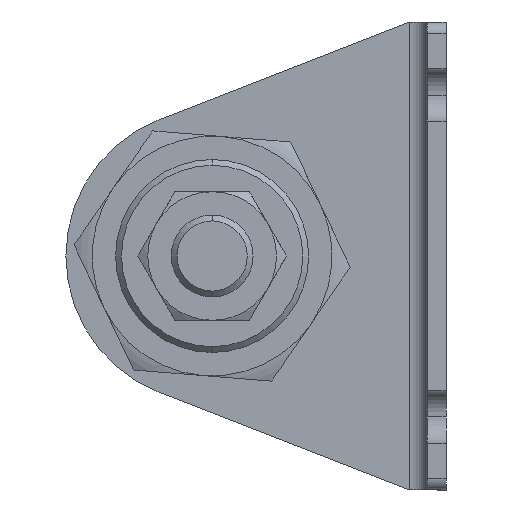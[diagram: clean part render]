
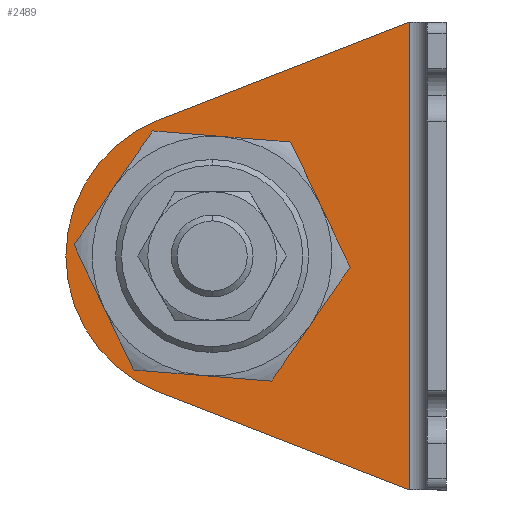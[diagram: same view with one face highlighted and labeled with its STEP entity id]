
A CAD part, left-side view. The second image highlights one B-rep face of the part: STEP entity #2489.
In plain terms, the highlighted planar face has unit normal (-1, 0, 0) as drawn and (1, 0, 0) by its records, which use the part's own axes.
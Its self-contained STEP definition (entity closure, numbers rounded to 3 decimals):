
#16 = VECTOR ( 'NONE', #435, 1000. ) ;
#71 = CARTESIAN_POINT ( 'NONE',  ( 3.2, 3.2, -80. ) ) ;
#74 = CIRCLE ( 'NONE', #3875, 16.5 ) ;
#118 = EDGE_LOOP ( 'NONE', ( #1416, #2751, #1003, #2740, #1123 ) ) ;
#152 = EDGE_CURVE ( 'NONE', #3621, #2873, #1204, .T. ) ;
#265 = FACE_BOUND ( 'NONE', #726, .T. ) ;
#325 = DIRECTION ( 'NONE',  ( 0., 1., 0. ) ) ;
#368 = ORIENTED_EDGE ( 'NONE', *, *, #4023, .F. ) ;
#377 = DIRECTION ( 'NONE',  ( 0., 1., 0. ) ) ;
#381 = AXIS2_PLACEMENT_3D ( 'NONE', #3571, #1869, #3562 ) ;
#435 = DIRECTION ( 'NONE',  ( 0., 0.932, -0.363 ) ) ;
#447 = PLANE ( 'NONE',  #811 ) ;
#646 = EDGE_CURVE ( 'NONE', #3621, #2455, #1400, .T. ) ;
#698 = CARTESIAN_POINT ( 'NONE',  ( 3.2, 40., -40. ) ) ;
#726 = EDGE_LOOP ( 'NONE', ( #2943, #368 ) ) ;
#797 = CARTESIAN_POINT ( 'NONE',  ( 3.2, 49.076, -63.294 ) ) ;
#811 = AXIS2_PLACEMENT_3D ( 'NONE', #71, #2053, #2721 ) ;
#858 = EDGE_CURVE ( 'NONE', #2698, #2455, #2291, .T. ) ;
#892 = CARTESIAN_POINT ( 'NONE',  ( 3.2, 3.595, -81.015 ) ) ;
#944 = CIRCLE ( 'NONE', #2268, 25. ) ;
#1003 = ORIENTED_EDGE ( 'NONE', *, *, #858, .T. ) ;
#1060 = VERTEX_POINT ( 'NONE', #1904 ) ;
#1067 = EDGE_CURVE ( 'NONE', #1462, #1060, #74, .T. ) ;
#1123 = ORIENTED_EDGE ( 'NONE', *, *, #152, .T. ) ;
#1204 = LINE ( 'NONE', #2755, #4118 ) ;
#1244 = CARTESIAN_POINT ( 'NONE',  ( 3.2, 6.2, -80. ) ) ;
#1314 = CARTESIAN_POINT ( 'NONE',  ( 3.2, 40., -40. ) ) ;
#1400 = LINE ( 'NONE', #2412, #16 ) ;
#1416 = ORIENTED_EDGE ( 'NONE', *, *, #2847, .T. ) ;
#1462 = VERTEX_POINT ( 'NONE', #2404 ) ;
#1465 = CARTESIAN_POINT ( 'NONE',  ( 3.2, 40., -40. ) ) ;
#1499 = DIRECTION ( 'NONE',  ( 1., 0., 0. ) ) ;
#1652 = CARTESIAN_POINT ( 'NONE',  ( 3.2, 49.076, -16.706 ) ) ;
#1673 = DIRECTION ( 'NONE',  ( 1., 0., 0. ) ) ;
#1694 = LINE ( 'NONE', #892, #4040 ) ;
#1869 = DIRECTION ( 'NONE',  ( 1., 0., 0. ) ) ;
#1876 = CARTESIAN_POINT ( 'NONE',  ( 3.2, 65., -40. ) ) ;
#1904 = CARTESIAN_POINT ( 'NONE',  ( 3.2, 23.5, -40. ) ) ;
#1916 = CARTESIAN_POINT ( 'NONE',  ( 3.2, 6.2, 0. ) ) ;
#2053 = DIRECTION ( 'NONE',  ( 1., 0., 0. ) ) ;
#2061 = CIRCLE ( 'NONE', #381, 16.5 ) ;
#2090 = DIRECTION ( 'NONE',  ( 0., 0., -1. ) ) ;
#2092 = EDGE_CURVE ( 'NONE', #2574, #2698, #944, .T. ) ;
#2188 = DIRECTION ( 'NONE',  ( 0., 0.932, 0.363 ) ) ;
#2268 = AXIS2_PLACEMENT_3D ( 'NONE', #1314, #2303, #325 ) ;
#2291 = CIRCLE ( 'NONE', #3207, 25. ) ;
#2303 = DIRECTION ( 'NONE',  ( 1., 0., 0. ) ) ;
#2404 = CARTESIAN_POINT ( 'NONE',  ( 3.2, 56.5, -40. ) ) ;
#2412 = CARTESIAN_POINT ( 'NONE',  ( 3.2, 30.657, -9.529 ) ) ;
#2455 = VERTEX_POINT ( 'NONE', #1652 ) ;
#2489 = ADVANCED_FACE ( 'NONE', ( #265, #3696 ), #447, .T. ) ;
#2574 = VERTEX_POINT ( 'NONE', #797 ) ;
#2698 = VERTEX_POINT ( 'NONE', #1876 ) ;
#2721 = DIRECTION ( 'NONE',  ( 0., 1., 0. ) ) ;
#2740 = ORIENTED_EDGE ( 'NONE', *, *, #646, .F. ) ;
#2751 = ORIENTED_EDGE ( 'NONE', *, *, #2092, .T. ) ;
#2755 = CARTESIAN_POINT ( 'NONE',  ( 3.2, 6.2, -80. ) ) ;
#2847 = EDGE_CURVE ( 'NONE', #2873, #2574, #1694, .T. ) ;
#2873 = VERTEX_POINT ( 'NONE', #1244 ) ;
#2943 = ORIENTED_EDGE ( 'NONE', *, *, #1067, .F. ) ;
#3207 = AXIS2_PLACEMENT_3D ( 'NONE', #1465, #1499, #3812 ) ;
#3562 = DIRECTION ( 'NONE',  ( 0., 1., 0. ) ) ;
#3571 = CARTESIAN_POINT ( 'NONE',  ( 3.2, 40., -40. ) ) ;
#3621 = VERTEX_POINT ( 'NONE', #1916 ) ;
#3696 = FACE_OUTER_BOUND ( 'NONE', #118, .T. ) ;
#3812 = DIRECTION ( 'NONE',  ( 0., 1., 0. ) ) ;
#3875 = AXIS2_PLACEMENT_3D ( 'NONE', #698, #1673, #377 ) ;
#4023 = EDGE_CURVE ( 'NONE', #1060, #1462, #2061, .T. ) ;
#4040 = VECTOR ( 'NONE', #2188, 1000. ) ;
#4118 = VECTOR ( 'NONE', #2090, 1000. ) ;
